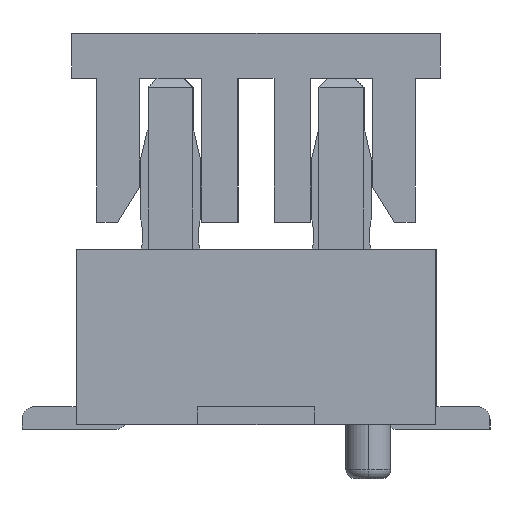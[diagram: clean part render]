
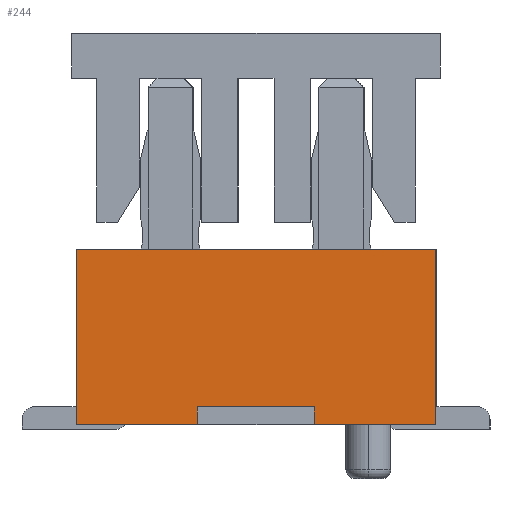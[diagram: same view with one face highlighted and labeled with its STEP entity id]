
A CAD part, left-side view. The second image highlights one B-rep face of the part: STEP entity #244.
In plain terms, the highlighted planar face has unit normal (-1, 0, 0).
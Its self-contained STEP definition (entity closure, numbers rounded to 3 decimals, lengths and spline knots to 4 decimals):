
#173=CARTESIAN_POINT('Axis2P3D Location',(-10.6,0.,0.)) ;
#178=CARTESIAN_POINT('Line Origine',(-10.6,0.65,0.1)) ;
#182=CARTESIAN_POINT('Vertex',(-10.6,0.65,0.)) ;
#184=CARTESIAN_POINT('Vertex',(-10.6,0.65,0.2)) ;
#187=CARTESIAN_POINT('Line Origine',(-10.6,0.,0.2)) ;
#191=CARTESIAN_POINT('Vertex',(-10.6,-0.65,0.2)) ;
#194=CARTESIAN_POINT('Line Origine',(-10.6,-0.65,0.1)) ;
#198=CARTESIAN_POINT('Vertex',(-10.6,-0.65,0.)) ;
#201=CARTESIAN_POINT('Line Origine',(-10.6,-1.325,0.)) ;
#205=CARTESIAN_POINT('Vertex',(-10.6,-2.,0.)) ;
#208=CARTESIAN_POINT('Line Origine',(-10.6,-2.,0.975)) ;
#212=CARTESIAN_POINT('Vertex',(-10.6,-2.,1.95)) ;
#215=CARTESIAN_POINT('Line Origine',(-10.6,0.,1.95)) ;
#219=CARTESIAN_POINT('Vertex',(-10.6,2.,1.95)) ;
#222=CARTESIAN_POINT('Line Origine',(-10.6,2.,0.975)) ;
#226=CARTESIAN_POINT('Vertex',(-10.6,2.,0.)) ;
#229=CARTESIAN_POINT('Line Origine',(-10.6,1.325,0.)) ;
#174=DIRECTION('Axis2P3D Direction',(1.,0.,0.)) ;
#175=DIRECTION('Axis2P3D XDirection',(0.,1.,0.)) ;
#179=DIRECTION('Vector Direction',(0.,0.,1.)) ;
#188=DIRECTION('Vector Direction',(0.,1.,0.)) ;
#195=DIRECTION('Vector Direction',(0.,0.,1.)) ;
#202=DIRECTION('Vector Direction',(0.,1.,0.)) ;
#209=DIRECTION('Vector Direction',(0.,0.,-1.)) ;
#216=DIRECTION('Vector Direction',(0.,1.,0.)) ;
#223=DIRECTION('Vector Direction',(0.,0.,-1.)) ;
#230=DIRECTION('Vector Direction',(0.,1.,0.)) ;
#176=AXIS2_PLACEMENT_3D('Plane Axis2P3D',#173,#174,#175) ;
#235=ORIENTED_EDGE('',*,*,#186,.T.) ;
#236=ORIENTED_EDGE('',*,*,#193,.F.) ;
#237=ORIENTED_EDGE('',*,*,#200,.F.) ;
#238=ORIENTED_EDGE('',*,*,#207,.F.) ;
#239=ORIENTED_EDGE('',*,*,#214,.F.) ;
#240=ORIENTED_EDGE('',*,*,#221,.F.) ;
#241=ORIENTED_EDGE('',*,*,#228,.F.) ;
#242=ORIENTED_EDGE('',*,*,#233,.F.) ;
#180=VECTOR('Line Direction',#179,1.) ;
#189=VECTOR('Line Direction',#188,1.) ;
#196=VECTOR('Line Direction',#195,1.) ;
#203=VECTOR('Line Direction',#202,1.) ;
#210=VECTOR('Line Direction',#209,1.) ;
#217=VECTOR('Line Direction',#216,1.) ;
#224=VECTOR('Line Direction',#223,1.) ;
#231=VECTOR('Line Direction',#230,1.) ;
#244=ADVANCED_FACE('\X2\96F64EF651E04F554F53\X0\',(#243),#177,.F.) ;
#186=EDGE_CURVE('',#183,#185,#181,.T.) ;
#193=EDGE_CURVE('',#192,#185,#190,.T.) ;
#200=EDGE_CURVE('',#199,#192,#197,.T.) ;
#207=EDGE_CURVE('',#206,#199,#204,.T.) ;
#214=EDGE_CURVE('',#213,#206,#211,.T.) ;
#221=EDGE_CURVE('',#220,#213,#218,.F.) ;
#228=EDGE_CURVE('',#227,#220,#225,.F.) ;
#233=EDGE_CURVE('',#183,#227,#232,.T.) ;
#234=EDGE_LOOP('',(#235,#236,#237,#238,#239,#240,#241,#242)) ;
#243=FACE_OUTER_BOUND('',#234,.T.) ;
#181=LINE('Line',#178,#180) ;
#190=LINE('Line',#187,#189) ;
#197=LINE('Line',#194,#196) ;
#204=LINE('Line',#201,#203) ;
#211=LINE('Line',#208,#210) ;
#218=LINE('Line',#215,#217) ;
#225=LINE('Line',#222,#224) ;
#232=LINE('Line',#229,#231) ;
#177=PLANE('Plane',#176) ;
#183=VERTEX_POINT('',#182) ;
#185=VERTEX_POINT('',#184) ;
#192=VERTEX_POINT('',#191) ;
#199=VERTEX_POINT('',#198) ;
#206=VERTEX_POINT('',#205) ;
#213=VERTEX_POINT('',#212) ;
#220=VERTEX_POINT('',#219) ;
#227=VERTEX_POINT('',#226) ;
